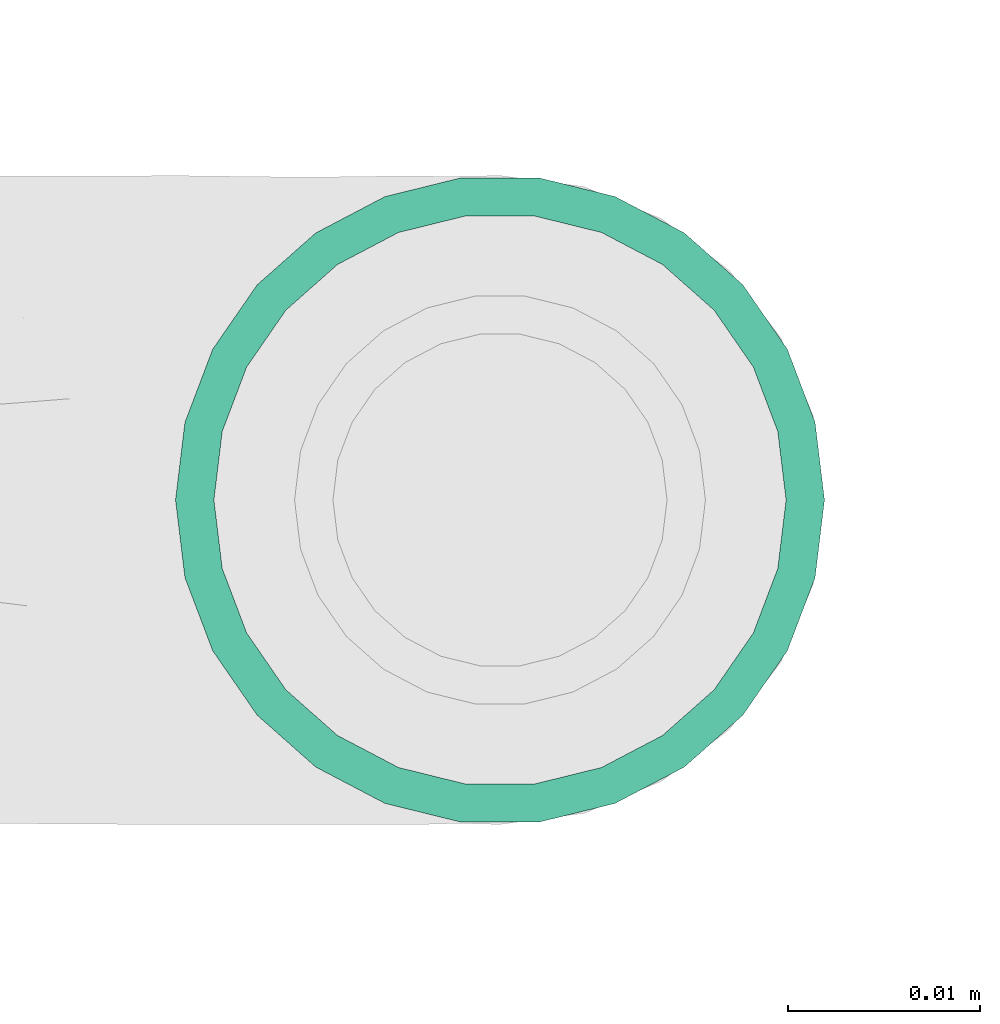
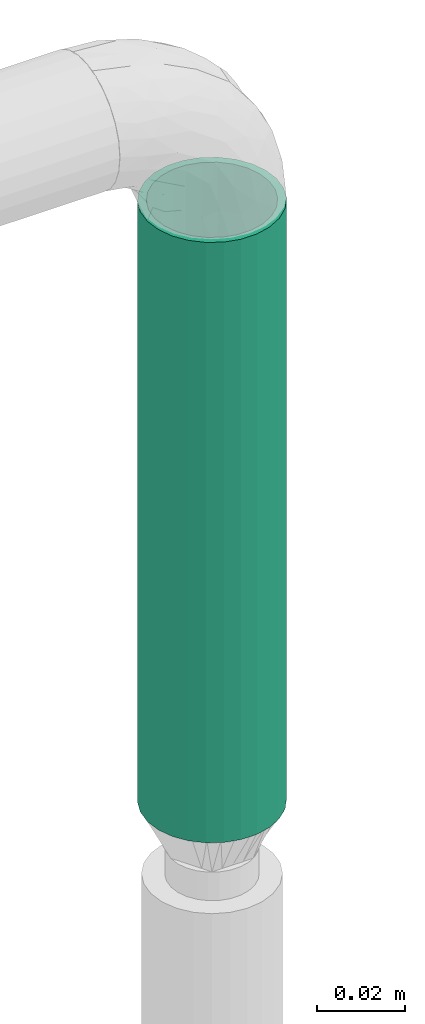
# One storey, part 10 of 43: 1 flow segment.
"""IFC2X3 building model written with IfcOpenShell, lengths in millimetres."""

import ifcopenshell
import ifcopenshell.guid

model = None  # the IFC model being written
_history = None  # IfcOwnerHistory: only IFC2X3 demands one
_inside = {}  # id of a spatial element -> (the spatial element, [elements in it])
_under = {}  # id of a project, library or spatial element -> (it, [spatial elements below it])
_declared = {}  # id of a project -> (the project, [libraries it declares])
_typed = {}  # id of a type object -> (the type object, [elements of that type])
_made_of = {}  # id of a material, layer set ... -> (it, [elements and type objects made of it])


def new_model(schema):
    """Start an empty IFC model of exactly this schema.

    Asked for "IFC4X3", IfcOpenShell would pick the latest addendum, in which some entities
    have other attributes; the version numbers below select the first issue.
    IFC2X3 requires an IfcOwnerHistory on every rooted entity: one is made here for all.
    """
    global model, _history
    if schema == "IFC4X3":
        model = ifcopenshell.file(schema_version=(4, 3, 0, 0))
    else:
        model = ifcopenshell.file(schema=schema)
    _inside.clear()
    _under.clear()
    _declared.clear()
    _typed.clear()
    _made_of.clear()
    _history = None
    if model.schema == "IFC2X3":
        org = make("IfcOrganization", Name="unknown")
        user = make(
            "IfcPersonAndOrganization",
            ThePerson=make("IfcPerson", FamilyName="unknown"),
            TheOrganization=org,
        )
        app = make(
            "IfcApplication",
            ApplicationDeveloper=org,
            Version="unknown",
            ApplicationFullName="unknown",
            ApplicationIdentifier="unknown",
        )
        _history = make(
            "IfcOwnerHistory",
            OwningUser=user,
            OwningApplication=app,
            ChangeAction="ADDED",
            CreationDate=0,
        )
    return model


def make(cls, **values):
    """One entity of the class cls with the attributes given. An attribute that is None is left unset."""
    return model.create_entity(
        cls, **{name: value for name, value in values.items() if value is not None}
    )


def entity(cls, *values):
    """Any entity or typed value of the class cls, its attributes in the order of the schema. None: left unset."""
    e = model.create_entity(cls)
    for i, value in enumerate(values):
        if value is not None:
            e[i] = value
    return e


def rooted(cls, **values):
    """An entity with a GlobalId (a new one), such as an element, a storey or a relation."""
    return make(cls, GlobalId=ifcopenshell.guid.new(), OwnerHistory=_history, **values)


def si_unit(unit_type, name, prefix=None):
    """IfcSIUnit, for example si_unit("LENGTHUNIT", "METRE", prefix="MILLI")."""
    return make("IfcSIUnit", UnitType=unit_type, Prefix=prefix, Name=name)


def converted_unit(unit_type, name, factor, base, dimensions=None, offset=None):
    """IfcConversionBasedUnit, such as the inch: factor (a typed value) times the base unit."""
    return make(
        "IfcConversionBasedUnit"
        if offset is None
        else "IfcConversionBasedUnitWithOffset",
        ConversionOffset=offset,
        Dimensions=None
        if dimensions is None
        else entity("IfcDimensionalExponents", *dimensions),
        UnitType=unit_type,
        Name=name,
        ConversionFactor=make(
            "IfcMeasureWithUnit", ValueComponent=factor, UnitComponent=base
        ),
    )


def derived_unit(unit_type, elements):
    """IfcDerivedUnit: a product of units, each with its exponent."""
    return make(
        "IfcDerivedUnit",
        Elements=[
            make("IfcDerivedUnitElement", Unit=unit, Exponent=power)
            for unit, power in elements
        ],
        UnitType=unit_type,
    )


def assignment(units):
    """IfcUnitAssignment: the units of a project."""
    return None if units is None else make("IfcUnitAssignment", Units=units)


def point(xyz):
    """IfcCartesianPoint."""
    return None if xyz is None else make("IfcCartesianPoint", Coordinates=xyz)


def direction(xyz):
    """IfcDirection."""
    return None if xyz is None else make("IfcDirection", DirectionRatios=xyz)


def frame(location, z_axis=None, x_axis=None):
    """IfcAxis2Placement3D, a coordinate frame: its origin and axes. An axis left out is left unset."""
    return make(
        "IfcAxis2Placement3D",
        Location=point(location),
        Axis=direction(z_axis),
        RefDirection=direction(x_axis),
    )


def frame_2d(location, x_axis=None):
    """IfcAxis2Placement2D, a coordinate frame in the plane: its origin and x axis."""
    return make(
        "IfcAxis2Placement2D", Location=point(location), RefDirection=direction(x_axis)
    )


def origin_with_axes():
    """The frame at (0, 0, 0) with the z axis (0, 0, 1) and the x axis (1, 0, 0) written out."""
    return frame((0.0, 0.0, 0.0), z_axis=(0.0, 0.0, 1.0), x_axis=(1.0, 0.0, 0.0))


def origin_2d_with_axis():
    """The frame at (0, 0) in the plane with the x axis (1, 0) written out."""
    return frame_2d((0.0, 0.0), x_axis=(1.0, 0.0))


def place(relative_to, where):
    """IfcLocalPlacement: puts the frame where relative to a parent placement (None: the world)."""
    return make(
        "IfcLocalPlacement", PlacementRelTo=relative_to, RelativePlacement=where
    )


def context(
    kind, dimensions, precision=None, world=None, true_north=None, identifier=None
):
    """IfcGeometricRepresentationContext, for example the 3D "Model" context."""
    return make(
        "IfcGeometricRepresentationContext",
        ContextIdentifier=identifier,
        ContextType=kind,
        CoordinateSpaceDimension=dimensions,
        Precision=precision,
        WorldCoordinateSystem=world,
        TrueNorth=true_north,
    )


def subcontext(parent, identifier, kind, view, scale=None):
    """IfcGeometricRepresentationSubContext, for example "Body" below "Model"."""
    return make(
        "IfcGeometricRepresentationSubContext",
        ContextIdentifier=identifier,
        ContextType=kind,
        ParentContext=parent,
        TargetScale=scale,
        TargetView=view,
    )


def project(units=None, contexts=None):
    """IfcProject with its units and contexts."""
    return rooted(
        "IfcProject",
        Name="project",
        RepresentationContexts=contexts,
        UnitsInContext=assignment(units),
    )


def spatial(cls, under=None, at=None, **own):
    """A site, building, storey or space (cls), placed at a placement, below another one or the project."""
    s = rooted(cls, ObjectPlacement=at, **own)
    if under is not None:
        _under.setdefault(under.id(), (under, []))[1].append(s)
    return s


def profile(cls, at=None, kind="AREA", **sizes):
    """A parametric profile (cls). Its sizes go by their IFC names, for example OverallWidth=200.0."""
    return make(cls, ProfileType=kind, Position=at, **sizes)


def hollow_circle(**sizes):
    """IfcCircleHollowProfileDef."""
    return profile("IfcCircleHollowProfileDef", **sizes)


def extrude(swept, where, along, depth):
    """IfcExtrudedAreaSolid: the profile swept, set in the frame where, extruded along a direction by depth."""
    return make(
        "IfcExtrudedAreaSolid",
        SweptArea=swept,
        Position=where,
        ExtrudedDirection=direction(along),
        Depth=depth,
    )


def shape(context_of_items, identifier, shape_type, items):
    """IfcShapeRepresentation: the items that make up one representation, for example the "Body"."""
    return make(
        "IfcShapeRepresentation",
        ContextOfItems=context_of_items,
        RepresentationIdentifier=identifier,
        RepresentationType=shape_type,
        Items=items,
    )


def source(mapping_origin, context_of_items, identifier, shape_type, items):
    """IfcRepresentationMap: a shape defined once, which mapped items show again and again."""
    return make(
        "IfcRepresentationMap",
        MappingOrigin=mapping_origin,
        MappedRepresentation=shape(context_of_items, identifier, shape_type, items),
    )


def transform(
    local_origin,
    x_axis=None,
    y_axis=None,
    z_axis=None,
    scale=None,
    scale2=None,
    scale3=None,
    uniform=True,
):
    """IfcCartesianTransformationOperator3D, or its non-uniform kind. x_axis, y_axis, z_axis: its Axis1, 2, 3."""
    if uniform:
        return make(
            "IfcCartesianTransformationOperator3D",
            Axis1=direction(x_axis),
            Axis2=direction(y_axis),
            LocalOrigin=point(local_origin),
            Scale=scale,
            Axis3=direction(z_axis),
        )
    return make(
        "IfcCartesianTransformationOperator3DnonUniform",
        Axis1=direction(x_axis),
        Axis2=direction(y_axis),
        LocalOrigin=point(local_origin),
        Scale=scale,
        Axis3=direction(z_axis),
        Scale2=scale2,
        Scale3=scale3,
    )


def mapped(mapping_source, mapping_target):
    """IfcMappedItem: shows the shape of a source again, moved by a transform."""
    return make(
        "IfcMappedItem", MappingSource=mapping_source, MappingTarget=mapping_target
    )


def made_of(thing, what):
    """Note that an element or type object is made of a material, layer set ...; save() writes the relation."""
    if what is not None:
        _made_of.setdefault(what.id(), (what, []))[1].append(thing)
    return thing


def type_object(cls, material=None, **own):
    """A type object (cls), such as IfcWallType, which elements share."""
    return made_of(rooted(cls, **own), material)


def element(
    cls,
    number,
    at=None,
    inside=None,
    cuts=None,
    type_object=None,
    material=None,
    context=None,
    identifier="Body",
    shape_type=None,
    held_by="IfcProductDefinitionShape",
    body=None,
    shapes=None,
    **own,
):
    """One element of the class cls, such as IfcWall. Its Tag is "e" and its number.

    at: its placement. inside: the storey or other place that contains it. cuts: it is an
    opening in that element (IfcRelVoidsElement). A single representation is given by context,
    identifier, shape_type and body (its items); several are given by shapes. held_by: the class
    of the entity that holds the representations. save() writes the other relations.
    """
    e = rooted(cls, Tag="e%d" % number, ObjectPlacement=at, **own)
    if body is not None:
        shapes = [shape(context, identifier, shape_type, body)]
    if shapes is not None:
        e.Representation = make(held_by, Representations=shapes)
    if inside is not None:
        _inside.setdefault(inside.id(), (inside, []))[1].append(e)
    if cuts is not None:
        rooted(
            "IfcRelVoidsElement", RelatingBuildingElement=cuts, RelatedOpeningElement=e
        )
    if type_object is not None:
        _typed.setdefault(type_object.id(), (type_object, []))[1].append(e)
    return made_of(e, material)


def aggregate(whole, parts):
    """IfcRelAggregates: a whole, such as a stair, and the parts it consists of."""
    return rooted("IfcRelAggregates", RelatingObject=whole, RelatedObjects=parts)


def save(model, path):
    """Write the relations noted so far, then the file.

    IfcRelAggregates (storeys below a building ...), IfcRelContainedInSpatialStructure (elements
    in a storey), IfcRelDefinesByType, IfcRelAssociatesMaterial and IfcRelDeclares: one each for
    every whole, place, type object, material and project.
    """
    for whole, parts in _under.values():
        aggregate(whole, parts)
    for where, things in _inside.values():
        rooted(
            "IfcRelContainedInSpatialStructure",
            RelatedElements=things,
            RelatingStructure=where,
        )
    for kind, things in _typed.values():
        rooted("IfcRelDefinesByType", RelatedObjects=things, RelatingType=kind)
    for what, things in _made_of.values():
        rooted("IfcRelAssociatesMaterial", RelatedObjects=things, RelatingMaterial=what)
    for by, libraries in _declared.values():
        rooted("IfcRelDeclares", RelatingContext=by, RelatedDefinitions=libraries)
    model.write(path)


model = new_model("IFC2X3")

# Units and contexts
model_context = context("Model", 3, precision=0.01, world=frame((0.0, 4.29681676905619e-09, 0.0)), true_north=direction((4.01073788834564e-13, 1.0)))
plan_context = context("Plan", 3, precision=0.01, world=frame((0.0, 4.29681676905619e-09, 0.0)), true_north=direction((4.01073788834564e-13, 1.0)))
body_context = subcontext(model_context, "Body", "Model", "MODEL_VIEW")
ifc_project = project(units=[converted_unit("PLANEANGLEUNIT", "DEGREE", entity("IfcPositiveLengthMeasure", 0.0174532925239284), si_unit("PLANEANGLEUNIT", "RADIAN"), dimensions=[0, 0, 0, 0, 0, 0, 0]), si_unit("AREAUNIT", "SQUARE_METRE"), si_unit("LENGTHUNIT", "METRE", prefix="MILLI"), si_unit("MASSUNIT", "GRAM", prefix="KILO"), si_unit("POWERUNIT", "WATT"), si_unit("PRESSUREUNIT", "PASCAL"), si_unit("FORCEUNIT", "NEWTON", prefix="KILO"), si_unit("ELECTRICVOLTAGEUNIT", "VOLT"), si_unit("ELECTRICCURRENTUNIT", "AMPERE"), si_unit("THERMODYNAMICTEMPERATUREUNIT", "DEGREE_CELSIUS"), si_unit("TIMEUNIT", "SECOND"), si_unit("VOLUMEUNIT", "CUBIC_METRE"), derived_unit("LINEARVELOCITYUNIT", [(si_unit("LENGTHUNIT", "METRE"), 1), (si_unit("TIMEUNIT", "SECOND"), -1)]), derived_unit("VOLUMETRICFLOWRATEUNIT", [(si_unit("VOLUMEUNIT", "CUBIC_METRE"), 1), (si_unit("TIMEUNIT", "SECOND"), -1)]), derived_unit("THERMALTRANSMITTANCEUNIT", [(si_unit("POWERUNIT", "WATT"), 1), (si_unit("THERMODYNAMICTEMPERATUREUNIT", "KELVIN"), -1), (si_unit("AREAUNIT", "SQUARE_METRE"), -1)]), derived_unit("SOUNDPRESSUREUNIT", [(si_unit("PRESSUREUNIT", "PASCAL"), 1)])], contexts=[model_context, plan_context])

# Site, building, storey
site_placement = place(None, frame((0.0, -4.29681676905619e-09, 0.0), z_axis=(0.0, 0.0, 1.0), x_axis=(1.0, 0.0, 0.0)))
site = spatial("IfcSite", under=ifc_project, at=site_placement, CompositionType="ELEMENT")
building_placement = place(site_placement, frame((0.0, 4.29681676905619e-09, 0.0), z_axis=(0.0, 0.0, 1.0), x_axis=(1.0, 0.0, 0.0)))
building = spatial("IfcBuilding", under=site, at=building_placement, Name="mc-building", CompositionType="ELEMENT")
storey_placement = place(building_placement, frame((0.0, 0.0, 210900.0), z_axis=(0.0, 0.0, 1.0), x_axis=(1.0, 0.0, 0.0)))
storey = spatial("IfcBuildingStorey", under=building, at=storey_placement, Name="Nivå F", CompositionType="ELEMENT", Elevation=210900.0)

# Flow segment
pipe_segment_type = type_object("IfcPipeSegmentType", Name="Stålrør normaltykke", PredefinedType="RIGIDSEGMENT")
shared_shape = source(origin_with_axes(), body_context, "Body", "SweptSolid", [
    extrude(hollow_circle(Radius=16.9, WallThickness=2.0, at=origin_2d_with_axis()), frame((0.0, 0.0, 0.0), z_axis=(1.0, 0.0, 0.0), x_axis=(0.0, 1.0, 0.0)), (0.0, 0.0, 1.0), 166.0),
])
flow_segment_placement = place(storey_placement, frame((610583.98955, 696033.67925, 2626.20000000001), z_axis=(0.0, 1.0, 0.0), x_axis=(0.0, 0.0, -1.0)))
element("IfcFlowSegment", 1, at=flow_segment_placement, inside=storey, type_object=pipe_segment_type, Name="Stålrør normaltykke", context=body_context, shape_type="MappedRepresentation", body=[
    mapped(shared_shape, transform((0.0, 0.0, 0.0), scale=1.0)),
])

save(model, "model.ifc")
